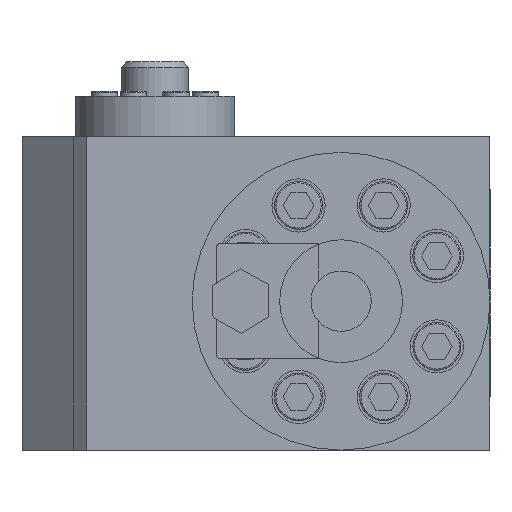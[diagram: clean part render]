
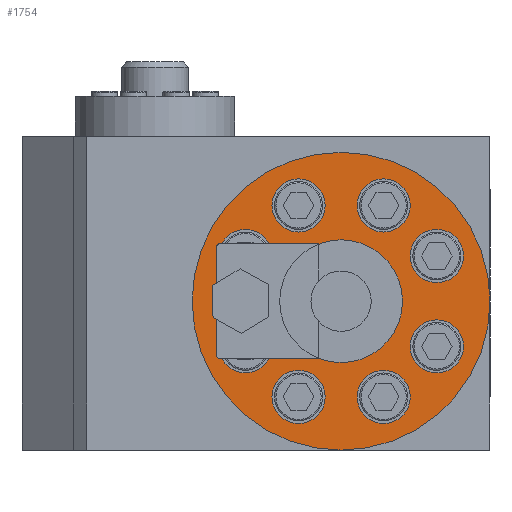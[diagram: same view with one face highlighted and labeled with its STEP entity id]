
A CAD part, left-side view. The second image highlights one B-rep face of the part: STEP entity #1754.
In plain terms, the highlighted planar face has unit normal (-1, 0, 0).
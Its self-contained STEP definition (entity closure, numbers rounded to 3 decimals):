
#1754=ADVANCED_FACE('',(#3059,#3060,#3061,#3062,#3063,#3064,#3065,#3066,
#3067),#2428,.F.);
#2428=PLANE('',#13516);
#3059=FACE_BOUND('',#3939,.T.);
#3060=FACE_BOUND('',#3940,.T.);
#3061=FACE_BOUND('',#3941,.T.);
#3062=FACE_BOUND('',#3942,.T.);
#3063=FACE_BOUND('',#3943,.T.);
#3064=FACE_BOUND('',#3944,.T.);
#3065=FACE_BOUND('',#3945,.T.);
#3066=FACE_BOUND('',#3946,.T.);
#3067=FACE_BOUND('',#3947,.T.);
#3939=EDGE_LOOP('',(#6505));
#3940=EDGE_LOOP('',(#6506));
#3941=EDGE_LOOP('',(#6507));
#3942=EDGE_LOOP('',(#6508));
#3943=EDGE_LOOP('',(#6509));
#3944=EDGE_LOOP('',(#6510));
#3945=EDGE_LOOP('',(#6511));
#3946=EDGE_LOOP('',(#6512));
#3947=EDGE_LOOP('',(#6513));
#4982=CIRCLE('',#13505,56.);
#4984=CIRCLE('',#13508,10.);
#4985=CIRCLE('',#13509,10.);
#4986=CIRCLE('',#13510,10.);
#4987=CIRCLE('',#13511,10.);
#4988=CIRCLE('',#13512,10.);
#4989=CIRCLE('',#13513,10.);
#4990=CIRCLE('',#13514,10.);
#4991=CIRCLE('',#13515,10.);
#6505=ORIENTED_EDGE('',*,*,#10243,.T.);
#6506=ORIENTED_EDGE('',*,*,#10244,.T.);
#6507=ORIENTED_EDGE('',*,*,#10245,.T.);
#6508=ORIENTED_EDGE('',*,*,#10246,.T.);
#6509=ORIENTED_EDGE('',*,*,#10247,.T.);
#6510=ORIENTED_EDGE('',*,*,#10248,.T.);
#6511=ORIENTED_EDGE('',*,*,#10249,.T.);
#6512=ORIENTED_EDGE('',*,*,#10250,.T.);
#6513=ORIENTED_EDGE('',*,*,#10241,.F.);
#8904=VERTEX_POINT('',#33359);
#8906=VERTEX_POINT('',#33364);
#8907=VERTEX_POINT('',#33366);
#8908=VERTEX_POINT('',#33368);
#8909=VERTEX_POINT('',#33370);
#8910=VERTEX_POINT('',#33372);
#8911=VERTEX_POINT('',#33374);
#8912=VERTEX_POINT('',#33376);
#8913=VERTEX_POINT('',#33378);
#10241=EDGE_CURVE('',#8904,#8904,#4982,.T.);
#10243=EDGE_CURVE('',#8906,#8906,#4984,.T.);
#10244=EDGE_CURVE('',#8907,#8907,#4985,.T.);
#10245=EDGE_CURVE('',#8908,#8908,#4986,.T.);
#10246=EDGE_CURVE('',#8909,#8909,#4987,.T.);
#10247=EDGE_CURVE('',#8910,#8910,#4988,.T.);
#10248=EDGE_CURVE('',#8911,#8911,#4989,.T.);
#10249=EDGE_CURVE('',#8912,#8912,#4990,.T.);
#10250=EDGE_CURVE('',#8913,#8913,#4991,.T.);
#13505=AXIS2_PLACEMENT_3D('',#33358,#15690,#15691);
#13508=AXIS2_PLACEMENT_3D('',#33363,#15696,#15697);
#13509=AXIS2_PLACEMENT_3D('',#33365,#15698,#15699);
#13510=AXIS2_PLACEMENT_3D('',#33367,#15700,#15701);
#13511=AXIS2_PLACEMENT_3D('',#33369,#15702,#15703);
#13512=AXIS2_PLACEMENT_3D('',#33371,#15704,#15705);
#13513=AXIS2_PLACEMENT_3D('',#33373,#15706,#15707);
#13514=AXIS2_PLACEMENT_3D('',#33375,#15708,#15709);
#13515=AXIS2_PLACEMENT_3D('',#33377,#15710,#15711);
#13516=AXIS2_PLACEMENT_3D('',#33379,#15712,#15713);
#15690=DIRECTION('',(1.,0.,0.));
#15691=DIRECTION('',(0.,0.,-1.));
#15696=DIRECTION('',(1.,0.,0.));
#15697=DIRECTION('',(0.,-1.,0.));
#15698=DIRECTION('',(1.,0.,0.));
#15699=DIRECTION('',(0.,-1.,0.));
#15700=DIRECTION('',(1.,0.,0.));
#15701=DIRECTION('',(0.,-1.,0.));
#15702=DIRECTION('',(1.,0.,0.));
#15703=DIRECTION('',(0.,-1.,0.));
#15704=DIRECTION('',(1.,0.,0.));
#15705=DIRECTION('',(0.,-1.,0.));
#15706=DIRECTION('',(1.,0.,0.));
#15707=DIRECTION('',(0.,-1.,0.));
#15708=DIRECTION('',(1.,0.,0.));
#15709=DIRECTION('',(0.,-1.,0.));
#15710=DIRECTION('',(1.,0.,0.));
#15711=DIRECTION('',(0.,-1.,0.));
#15712=DIRECTION('',(1.,0.,0.));
#15713=DIRECTION('',(0.,1.,0.));
#33358=CARTESIAN_POINT('',(-129.529,-40.705,56.));
#33359=CARTESIAN_POINT('',(-129.529,-40.705,0.));
#33363=CARTESIAN_POINT('',(-129.529,-56.705,20.));
#33364=CARTESIAN_POINT('',(-129.529,-66.705,20.));
#33365=CARTESIAN_POINT('',(-129.529,-24.705,20.));
#33366=CARTESIAN_POINT('',(-129.529,-34.705,20.));
#33367=CARTESIAN_POINT('',(-129.529,-24.705,92.));
#33368=CARTESIAN_POINT('',(-129.529,-34.705,92.));
#33369=CARTESIAN_POINT('',(-129.529,-56.705,92.));
#33370=CARTESIAN_POINT('',(-129.529,-66.705,92.));
#33371=CARTESIAN_POINT('',(-129.529,-76.705,39.));
#33372=CARTESIAN_POINT('',(-129.529,-86.705,39.));
#33373=CARTESIAN_POINT('',(-129.529,-4.705,39.));
#33374=CARTESIAN_POINT('',(-129.529,-14.705,39.));
#33375=CARTESIAN_POINT('',(-129.529,-4.705,73.));
#33376=CARTESIAN_POINT('',(-129.529,-14.705,73.));
#33377=CARTESIAN_POINT('',(-129.529,-76.705,73.));
#33378=CARTESIAN_POINT('',(-129.529,-86.705,73.));
#33379=CARTESIAN_POINT('',(-129.529,-40.705,56.));
